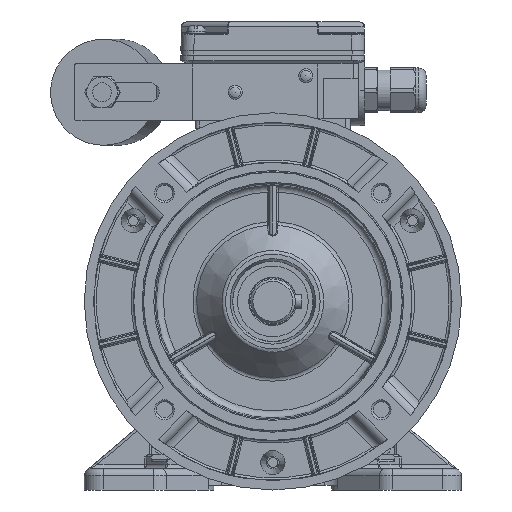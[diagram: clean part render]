
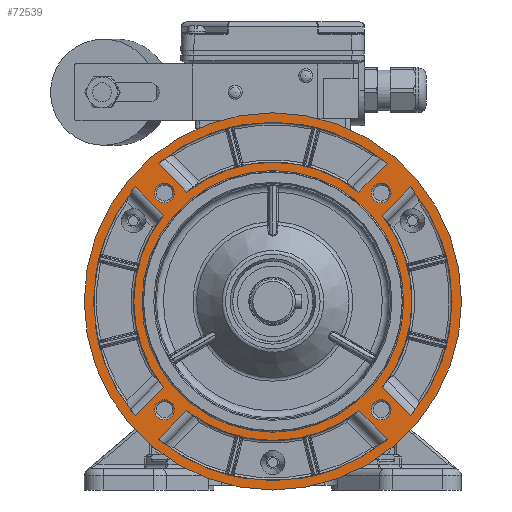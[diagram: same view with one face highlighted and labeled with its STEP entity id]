
A CAD part, left-side view. The second image highlights one B-rep face of the part: STEP entity #72539.
In plain terms, the highlighted planar face has unit normal (-1, 0, 0).
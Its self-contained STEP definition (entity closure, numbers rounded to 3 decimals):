
#4655=LINE('',#107344,#8385);
#4656=LINE('',#107353,#8386);
#4657=LINE('',#107372,#8387);
#4658=LINE('',#107381,#8388);
#4659=LINE('',#107388,#8389);
#4660=LINE('',#107407,#8390);
#4662=LINE('',#107798,#8392);
#4663=LINE('',#107809,#8393);
#8385=VECTOR('',#87098,1000.);
#8386=VECTOR('',#87105,1000.);
#8387=VECTOR('',#87112,1000.);
#8388=VECTOR('',#87119,1000.);
#8389=VECTOR('',#87122,1000.);
#8390=VECTOR('',#87129,1000.);
#8392=VECTOR('',#87203,1000.);
#8393=VECTOR('',#87210,1000.);
#19410=ORIENTED_EDGE('',*,*,#31160,.T.);
#19411=ORIENTED_EDGE('',*,*,#31159,.T.);
#19412=ORIENTED_EDGE('',*,*,#31158,.T.);
#19413=ORIENTED_EDGE('',*,*,#31157,.T.);
#19414=ORIENTED_EDGE('',*,*,#31156,.T.);
#19415=ORIENTED_EDGE('',*,*,#31206,.T.);
#19416=ORIENTED_EDGE('',*,*,#31204,.T.);
#19417=ORIENTED_EDGE('',*,*,#31207,.T.);
#19418=ORIENTED_EDGE('',*,*,#31208,.F.);
#19419=ORIENTED_EDGE('',*,*,#31209,.F.);
#19420=ORIENTED_EDGE('',*,*,#31155,.T.);
#19421=ORIENTED_EDGE('',*,*,#31154,.F.);
#19422=ORIENTED_EDGE('',*,*,#31151,.F.);
#19423=ORIENTED_EDGE('',*,*,#31149,.T.);
#19424=ORIENTED_EDGE('',*,*,#31147,.T.);
#19425=ORIENTED_EDGE('',*,*,#31145,.T.);
#19426=ORIENTED_EDGE('',*,*,#31144,.F.);
#19427=ORIENTED_EDGE('',*,*,#31141,.F.);
#19428=ORIENTED_EDGE('',*,*,#31139,.T.);
#19429=ORIENTED_EDGE('',*,*,#31137,.T.);
#19430=ORIENTED_EDGE('',*,*,#31136,.F.);
#19431=ORIENTED_EDGE('',*,*,#31133,.F.);
#31133=EDGE_CURVE('',#37675,#37676,#41450,.T.);
#31136=EDGE_CURVE('',#37676,#37677,#4655,.T.);
#31137=EDGE_CURVE('',#37678,#37677,#41451,.T.);
#31139=EDGE_CURVE('',#37675,#37678,#4656,.T.);
#31141=EDGE_CURVE('',#37679,#37680,#41452,.T.);
#31144=EDGE_CURVE('',#37680,#37681,#4657,.T.);
#31145=EDGE_CURVE('',#37682,#37681,#41453,.T.);
#31147=EDGE_CURVE('',#37679,#37682,#4658,.T.);
#31149=EDGE_CURVE('',#37684,#37683,#4659,.T.);
#31151=EDGE_CURVE('',#37684,#37685,#41454,.T.);
#31154=EDGE_CURVE('',#37685,#37686,#4660,.T.);
#31155=EDGE_CURVE('',#37683,#37686,#41455,.T.);
#31156=EDGE_CURVE('',#37687,#37687,#41456,.F.);
#31157=EDGE_CURVE('',#37688,#37688,#41457,.F.);
#31158=EDGE_CURVE('',#37689,#37689,#41458,.F.);
#31159=EDGE_CURVE('',#37690,#37690,#41459,.F.);
#31160=EDGE_CURVE('',#37691,#37691,#41460,.F.);
#31204=EDGE_CURVE('',#37714,#37713,#4662,.T.);
#31206=EDGE_CURVE('',#37715,#37715,#41476,.T.);
#31207=EDGE_CURVE('',#37713,#37716,#41477,.T.);
#31208=EDGE_CURVE('',#37717,#37716,#4663,.T.);
#31209=EDGE_CURVE('',#37714,#37717,#41478,.T.);
#37675=VERTEX_POINT('',#107331);
#37676=VERTEX_POINT('',#107333);
#37677=VERTEX_POINT('',#107343);
#37678=VERTEX_POINT('',#107347);
#37679=VERTEX_POINT('',#107359);
#37680=VERTEX_POINT('',#107361);
#37681=VERTEX_POINT('',#107371);
#37682=VERTEX_POINT('',#107375);
#37683=VERTEX_POINT('',#107387);
#37684=VERTEX_POINT('',#107389);
#37685=VERTEX_POINT('',#107396);
#37686=VERTEX_POINT('',#107406);
#37687=VERTEX_POINT('',#107412);
#37688=VERTEX_POINT('',#107415);
#37689=VERTEX_POINT('',#107418);
#37690=VERTEX_POINT('',#107421);
#37691=VERTEX_POINT('',#107424);
#37713=VERTEX_POINT('',#107797);
#37714=VERTEX_POINT('',#107799);
#37715=VERTEX_POINT('',#107806);
#37716=VERTEX_POINT('',#107808);
#37717=VERTEX_POINT('',#107810);
#41450=CIRCLE('',#76770,76.);
#41451=CIRCLE('',#76773,59.);
#41452=CIRCLE('',#76776,76.);
#41453=CIRCLE('',#76779,59.);
#41454=CIRCLE('',#76783,76.);
#41455=CIRCLE('',#76786,59.);
#41456=CIRCLE('',#76788,4.2);
#41457=CIRCLE('',#76790,4.2);
#41458=CIRCLE('',#76792,4.2);
#41459=CIRCLE('',#76794,4.2);
#41460=CIRCLE('',#76796,55.5);
#41476=CIRCLE('',#76822,80.);
#41477=CIRCLE('',#76823,59.);
#41478=CIRCLE('',#76824,76.);
#44391=EDGE_LOOP('',(#19410));
#44392=EDGE_LOOP('',(#19411));
#44393=EDGE_LOOP('',(#19412));
#44394=EDGE_LOOP('',(#19413));
#44395=EDGE_LOOP('',(#19414));
#44396=EDGE_LOOP('',(#19415));
#44397=EDGE_LOOP('',(#19416,#19417,#19418,#19419));
#44398=EDGE_LOOP('',(#19420,#19421,#19422,#19423));
#44399=EDGE_LOOP('',(#19424,#19425,#19426,#19427));
#44400=EDGE_LOOP('',(#19428,#19429,#19430,#19431));
#47999=FACE_BOUND('',#44391,.T.);
#48000=FACE_BOUND('',#44392,.T.);
#48001=FACE_BOUND('',#44393,.T.);
#48002=FACE_BOUND('',#44394,.T.);
#48003=FACE_BOUND('',#44395,.T.);
#48004=FACE_BOUND('',#44396,.T.);
#48005=FACE_BOUND('',#44397,.T.);
#48006=FACE_BOUND('',#44398,.T.);
#48007=FACE_BOUND('',#44399,.T.);
#48008=FACE_BOUND('',#44400,.T.);
#50435=PLANE('',#76821);
#72539=ADVANCED_FACE('',(#47999,#48000,#48001,#48002,#48003,#48004,#48005,
#48006,#48007,#48008),#50435,.T.);
#76770=AXIS2_PLACEMENT_3D('',#107332,#87094,#87095);
#76773=AXIS2_PLACEMENT_3D('',#107346,#87101,#87102);
#76776=AXIS2_PLACEMENT_3D('',#107360,#87108,#87109);
#76779=AXIS2_PLACEMENT_3D('',#107374,#87115,#87116);
#76783=AXIS2_PLACEMENT_3D('',#107395,#87125,#87126);
#76786=AXIS2_PLACEMENT_3D('',#107409,#87132,#87133);
#76788=AXIS2_PLACEMENT_3D('',#107411,#87136,#87137);
#76790=AXIS2_PLACEMENT_3D('',#107414,#87140,#87141);
#76792=AXIS2_PLACEMENT_3D('',#107417,#87144,#87145);
#76794=AXIS2_PLACEMENT_3D('',#107420,#87148,#87149);
#76796=AXIS2_PLACEMENT_3D('',#107423,#87152,#87153);
#76821=AXIS2_PLACEMENT_3D('',#107804,#87204,#87205);
#76822=AXIS2_PLACEMENT_3D('',#107805,#87206,#87207);
#76823=AXIS2_PLACEMENT_3D('',#107807,#87208,#87209);
#76824=AXIS2_PLACEMENT_3D('',#107811,#87211,#87212);
#87094=DIRECTION('',(-1.,0.,0.));
#87095=DIRECTION('',(0.,0.,1.));
#87098=DIRECTION('',(0.,-0.707,0.707));
#87101=DIRECTION('',(-1.,0.,0.));
#87102=DIRECTION('',(0.,0.,1.));
#87105=DIRECTION('',(0.,-0.707,-0.707));
#87108=DIRECTION('',(-1.,0.,0.));
#87109=DIRECTION('',(0.,0.,1.));
#87112=DIRECTION('',(0.,-0.707,-0.707));
#87115=DIRECTION('',(-1.,0.,0.));
#87116=DIRECTION('',(0.,0.,1.));
#87119=DIRECTION('',(0.,0.707,-0.707));
#87122=DIRECTION('',(0.,-0.707,0.707));
#87125=DIRECTION('',(-1.,0.,0.));
#87126=DIRECTION('',(0.,0.,1.));
#87129=DIRECTION('',(0.,0.707,0.707));
#87132=DIRECTION('',(-1.,0.,0.));
#87133=DIRECTION('',(0.,0.,1.));
#87136=DIRECTION('',(-1.,0.,0.));
#87137=DIRECTION('',(0.,-1.,0.));
#87140=DIRECTION('',(-1.,0.,0.));
#87141=DIRECTION('',(0.,-1.,0.));
#87144=DIRECTION('',(-1.,0.,0.));
#87145=DIRECTION('',(0.,-1.,0.));
#87148=DIRECTION('',(-1.,0.,0.));
#87149=DIRECTION('',(0.,-1.,0.));
#87152=DIRECTION('',(-1.,0.,0.));
#87153=DIRECTION('',(0.,-1.,0.));
#87203=DIRECTION('',(0.,0.707,0.707));
#87204=DIRECTION('',(-1.,0.,0.));
#87205=DIRECTION('',(0.,-1.,0.));
#87206=DIRECTION('',(-1.,0.,0.));
#87207=DIRECTION('',(0.,1.,0.));
#87208=DIRECTION('',(-1.,0.,0.));
#87209=DIRECTION('',(0.,0.,1.));
#87210=DIRECTION('',(0.,0.707,-0.707));
#87211=DIRECTION('',(-1.,0.,0.));
#87212=DIRECTION('',(0.,0.,1.));
#107331=CARTESIAN_POINT('',(-47.8,58.461,48.562));
#107332=CARTESIAN_POINT('',(-47.8,0.,0.));
#107333=CARTESIAN_POINT('',(-47.8,58.461,-48.562));
#107343=CARTESIAN_POINT('',(-47.8,46.374,-36.475));
#107344=CARTESIAN_POINT('',(-47.8,70.057,-60.157));
#107346=CARTESIAN_POINT('',(-47.8,0.,0.));
#107347=CARTESIAN_POINT('',(-47.8,46.374,36.475));
#107353=CARTESIAN_POINT('',(-47.8,70.057,60.157));
#107359=CARTESIAN_POINT('',(-47.8,-48.562,58.461));
#107360=CARTESIAN_POINT('',(-47.8,0.,0.));
#107361=CARTESIAN_POINT('',(-47.8,48.562,58.461));
#107371=CARTESIAN_POINT('',(-47.8,36.475,46.374));
#107372=CARTESIAN_POINT('',(-47.8,60.157,70.057));
#107374=CARTESIAN_POINT('',(-47.8,0.,0.));
#107375=CARTESIAN_POINT('',(-47.8,-36.475,46.374));
#107381=CARTESIAN_POINT('',(-47.8,-60.157,70.057));
#107387=CARTESIAN_POINT('',(-47.8,36.475,-46.374));
#107388=CARTESIAN_POINT('',(-47.8,60.157,-70.057));
#107389=CARTESIAN_POINT('',(-47.8,48.562,-58.461));
#107395=CARTESIAN_POINT('',(-47.8,0.,0.));
#107396=CARTESIAN_POINT('',(-47.8,-48.562,-58.461));
#107406=CARTESIAN_POINT('',(-47.8,-36.475,-46.374));
#107407=CARTESIAN_POINT('',(-47.8,-60.157,-70.057));
#107409=CARTESIAN_POINT('',(-47.8,0.,0.));
#107411=CARTESIAN_POINT('',(-47.8,45.962,-45.962));
#107412=CARTESIAN_POINT('',(-47.8,41.762,-45.962));
#107414=CARTESIAN_POINT('',(-47.8,45.962,45.962));
#107415=CARTESIAN_POINT('',(-47.8,41.762,45.962));
#107417=CARTESIAN_POINT('',(-47.8,-45.962,45.962));
#107418=CARTESIAN_POINT('',(-47.8,-50.162,45.962));
#107420=CARTESIAN_POINT('',(-47.8,-45.962,-45.962));
#107421=CARTESIAN_POINT('',(-47.8,-50.162,-45.962));
#107423=CARTESIAN_POINT('',(-47.8,0.,0.));
#107424=CARTESIAN_POINT('',(-47.8,-55.5,0.));
#107797=CARTESIAN_POINT('',(-47.8,-46.374,-36.475));
#107798=CARTESIAN_POINT('',(-47.8,-70.057,-60.157));
#107799=CARTESIAN_POINT('',(-47.8,-58.461,-48.562));
#107804=CARTESIAN_POINT('',(-47.8,0.,0.));
#107805=CARTESIAN_POINT('',(-47.8,0.,0.));
#107806=CARTESIAN_POINT('',(-47.8,80.,0.));
#107807=CARTESIAN_POINT('',(-47.8,0.,0.));
#107808=CARTESIAN_POINT('',(-47.8,-46.374,36.475));
#107809=CARTESIAN_POINT('',(-47.8,-70.057,60.157));
#107810=CARTESIAN_POINT('',(-47.8,-58.461,48.562));
#107811=CARTESIAN_POINT('',(-47.8,0.,0.));
